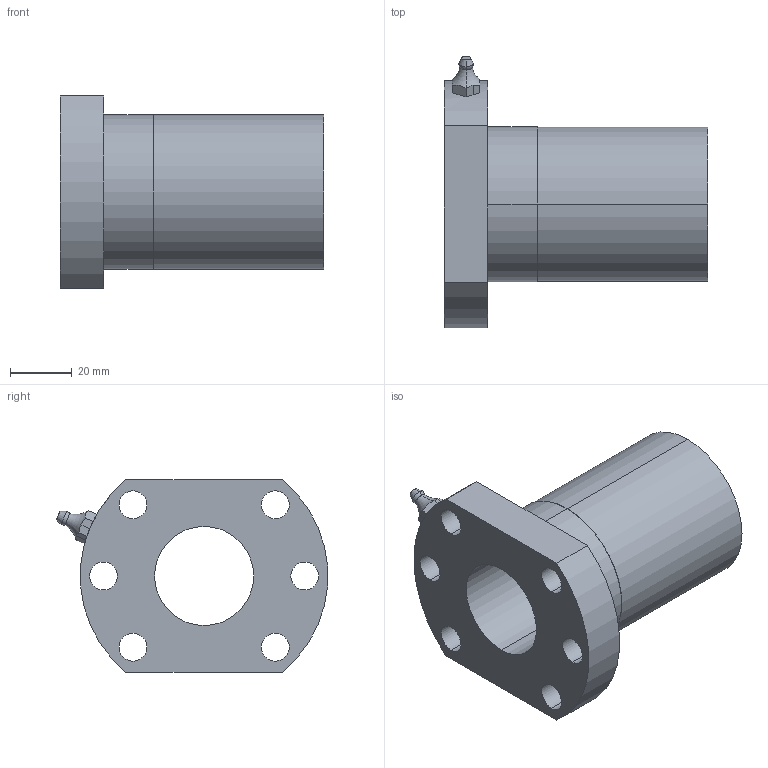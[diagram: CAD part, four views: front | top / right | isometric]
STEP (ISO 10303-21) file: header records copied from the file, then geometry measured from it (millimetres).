
FILE_DESCRIPTION (( 'STEP AP203' ), '1' );
FILE_NAME ('DEB3210-R-4EF.STEP', '2002-08-15T11:01:14', ( '.' ), ( '.' ), 'SwSTEP 2.0', 'SolidWorks 2001340', '' );
FILE_SCHEMA (( 'CONFIG_CONTROL_DESIGN' ));
Length unit declared in the file: millimetre
Products named in the file (1): DEB3210-R-4EF
Bounding box: 85 x 87.56 x 62 mm (x, y, z)
Volume: 126687.6 mm3; surface area: 32054.4 mm2
Topology: 1 solids, 1 shells, 51 faces, 138 edges, 90 vertices
Faces by surface type: cylinder 26, plane 19, torus 2, sphere 2, cone 2
Entity records: 1743 total; most frequent: CARTESIAN_POINT 388, ORIENTED_EDGE 268, DIRECTION 266, EDGE_CURVE 134, AXIS2_PLACEMENT_3D 110, VERTEX_POINT 88, EDGE_LOOP 68, CIRCLE 58
